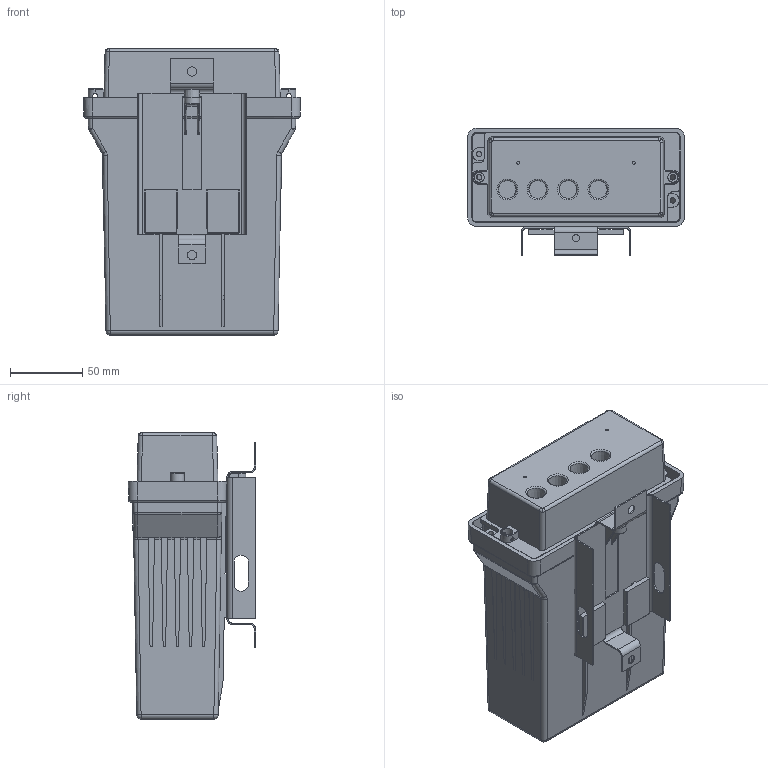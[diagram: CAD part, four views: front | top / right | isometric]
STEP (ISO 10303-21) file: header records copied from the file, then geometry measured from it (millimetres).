
FILE_DESCRIPTION(('STEP AP203'), '1');
FILE_NAME('栖闉罻', '2019-08-16T09:43:19', (' '), (''), 'ASCON STEP Converter 1.3', 'ASCON Math Kernel', '');
FILE_SCHEMA(('CONFIG_CONTROL_DESIGN'));
Length unit declared in the file: millimetre
Products named in the file (1): 19
Bounding box: 149.98 x 88.12 x 198 mm (x, y, z)
Volume: 290700.2 mm3; surface area: 224965.6 mm2
Topology: 4 solids, 4 shells, 765 faces, 1992 edges, 1252 vertices
Faces by surface type: plane 411, cylinder 239, bspline 78, cone 20, torus 8, sphere 8, extrusion 1
Full cylindrical faces by diameter (mm): 2 x2, 3.75 x6, 4.3 x6, 5 x1, 6.4 x2, 6.5 x1, 7 x2, 7.5 x6
Entity records: 36452 total; most frequent: CARTESIAN_POINT 18629, ORIENTED_EDGE 3984, DIRECTION 3153, EDGE_CURVE 1992, VECTOR 1259, LINE 1258, VERTEX_POINT 1252, AXIS2_PLACEMENT_3D 947
